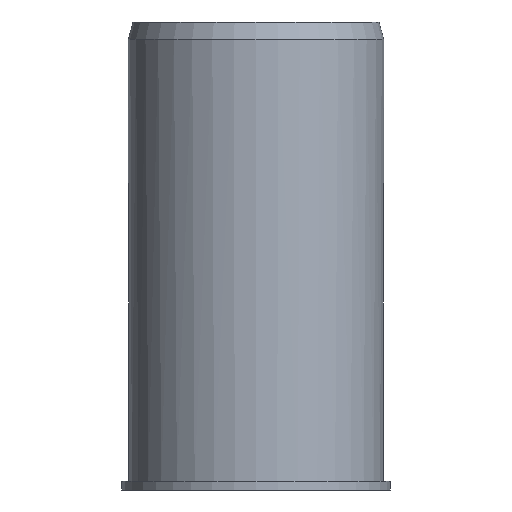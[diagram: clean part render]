
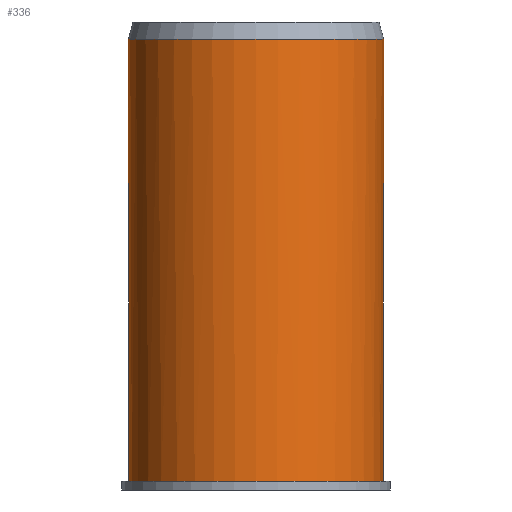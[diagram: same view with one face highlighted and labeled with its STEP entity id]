
A CAD part, left-side view. The second image highlights one B-rep face of the part: STEP entity #336.
In plain terms, the highlighted cylindrical face has radius 7.5 mm (diameter 15 mm), a full revolution.
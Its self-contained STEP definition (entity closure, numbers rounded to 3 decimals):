
#55=LINE('',#582,#79);
#56=LINE('',#583,#80);
#57=LINE('',#587,#81);
#58=LINE('',#588,#82);
#79=VECTOR('',#464,1000.);
#80=VECTOR('',#465,1000.);
#81=VECTOR('',#468,1000.);
#82=VECTOR('',#469,1000.);
#128=ORIENTED_EDGE('',*,*,#212,.T.);
#129=ORIENTED_EDGE('',*,*,#213,.T.);
#130=ORIENTED_EDGE('',*,*,#214,.T.);
#131=ORIENTED_EDGE('',*,*,#207,.F.);
#132=ORIENTED_EDGE('',*,*,#215,.T.);
#133=ORIENTED_EDGE('',*,*,#216,.T.);
#134=ORIENTED_EDGE('',*,*,#217,.T.);
#135=ORIENTED_EDGE('',*,*,#210,.F.);
#136=ORIENTED_EDGE('',*,*,#218,.T.);
#207=EDGE_CURVE('',#246,#247,#268,.T.);
#210=EDGE_CURVE('',#248,#249,#269,.T.);
#212=EDGE_CURVE('',#250,#250,#270,.T.);
#213=EDGE_CURVE('',#251,#252,#271,.F.);
#214=EDGE_CURVE('',#252,#247,#55,.T.);
#215=EDGE_CURVE('',#246,#253,#56,.F.);
#216=EDGE_CURVE('',#253,#254,#272,.F.);
#217=EDGE_CURVE('',#254,#249,#57,.T.);
#218=EDGE_CURVE('',#248,#251,#58,.F.);
#246=VERTEX_POINT('',#566);
#247=VERTEX_POINT('',#568);
#248=VERTEX_POINT('',#572);
#249=VERTEX_POINT('',#574);
#250=VERTEX_POINT('',#578);
#251=VERTEX_POINT('',#580);
#252=VERTEX_POINT('',#581);
#253=VERTEX_POINT('',#584);
#254=VERTEX_POINT('',#586);
#268=CIRCLE('',#378,7.5);
#269=CIRCLE('',#380,7.5);
#270=CIRCLE('',#382,7.5);
#271=CIRCLE('',#383,7.5);
#272=CIRCLE('',#384,7.5);
#285=EDGE_LOOP('',(#128));
#286=EDGE_LOOP('',(#129,#130,#131,#132,#133,#134,#135,#136));
#309=FACE_BOUND('',#285,.T.);
#310=FACE_BOUND('',#286,.T.);
#326=CYLINDRICAL_SURFACE('',#381,7.5);
#336=ADVANCED_FACE('',(#309,#310),#326,.T.);
#378=AXIS2_PLACEMENT_3D('',#567,#449,#450);
#380=AXIS2_PLACEMENT_3D('',#573,#455,#456);
#381=AXIS2_PLACEMENT_3D('',#576,#458,#459);
#382=AXIS2_PLACEMENT_3D('',#577,#460,#461);
#383=AXIS2_PLACEMENT_3D('',#579,#462,#463);
#384=AXIS2_PLACEMENT_3D('',#585,#466,#467);
#449=DIRECTION('',(0.,0.,-1.));
#450=DIRECTION('',(-1.,0.,0.));
#455=DIRECTION('',(0.,0.,-1.));
#456=DIRECTION('',(-1.,0.,0.));
#458=DIRECTION('',(0.,0.,-1.));
#459=DIRECTION('',(-1.,0.,0.));
#460=DIRECTION('',(0.,0.,-1.));
#461=DIRECTION('',(-1.,0.,0.));
#462=DIRECTION('',(0.,0.,-1.));
#463=DIRECTION('',(-1.,0.,0.));
#464=DIRECTION('',(0.,0.,-1.));
#465=DIRECTION('',(0.,0.,-1.));
#466=DIRECTION('',(0.,0.,-1.));
#467=DIRECTION('',(-1.,0.,0.));
#468=DIRECTION('',(0.,0.,-1.));
#469=DIRECTION('',(0.,0.,-1.));
#566=CARTESIAN_POINT('',(-0.5,-7.483,0.5));
#567=CARTESIAN_POINT('',(0.,0.,0.5));
#568=CARTESIAN_POINT('',(-0.5,7.483,0.5));
#572=CARTESIAN_POINT('',(0.5,7.483,0.5));
#573=CARTESIAN_POINT('',(0.,0.,0.5));
#574=CARTESIAN_POINT('',(0.5,-7.483,0.5));
#576=CARTESIAN_POINT('',(0.,0.,0.));
#577=CARTESIAN_POINT('',(0.,0.,26.5));
#578=CARTESIAN_POINT('',(-7.5,0.,26.5));
#579=CARTESIAN_POINT('',(0.,0.,18.));
#580=CARTESIAN_POINT('',(0.5,7.483,18.));
#581=CARTESIAN_POINT('',(-0.5,7.483,18.));
#582=CARTESIAN_POINT('',(-0.5,7.483,0.));
#583=CARTESIAN_POINT('',(-0.5,-7.483,0.));
#584=CARTESIAN_POINT('',(-0.5,-7.483,18.));
#585=CARTESIAN_POINT('',(0.,0.,18.));
#586=CARTESIAN_POINT('',(0.5,-7.483,18.));
#587=CARTESIAN_POINT('',(0.5,-7.483,0.));
#588=CARTESIAN_POINT('',(0.5,7.483,0.));
